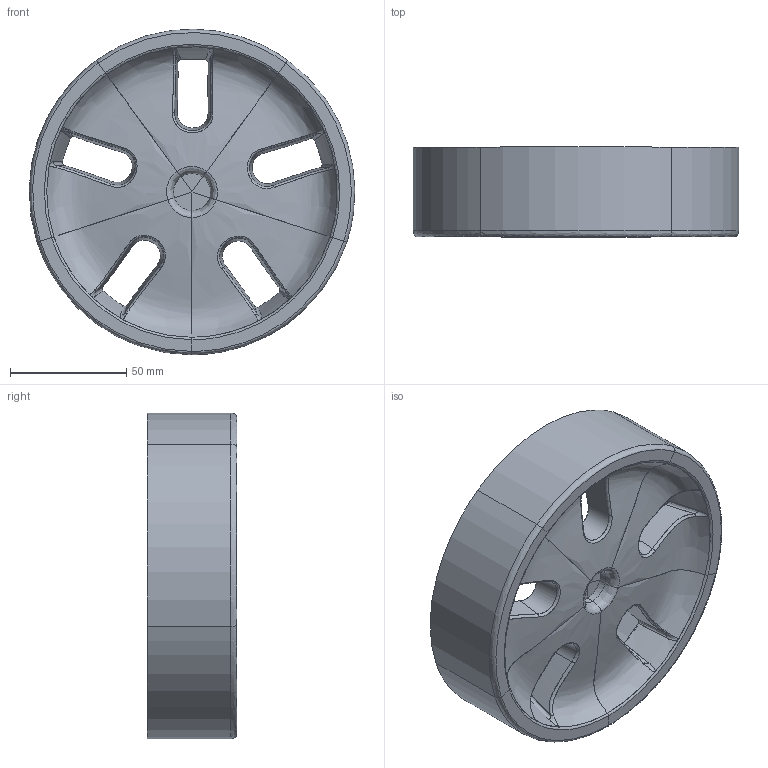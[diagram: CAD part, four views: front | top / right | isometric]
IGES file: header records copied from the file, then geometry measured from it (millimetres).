
Start section:  Alias AutoStudio for Windows version 9.7.1 IGES version 5.0
Global section: file name: C:\Dokumente und Einstellungen\Administrator\Desktop\FELGEN\wheel_rk_vorn1.igs; native system: Alias AutoStudio for Windows V9.7.1; preprocessor: 9.7.1; author: Administrator; organization: Unknown; date: 040125.232032; units: millimetre
Bounding box: 139.83 x 38.43 x 139.85 mm (x, y, z)
Surface area: 57145.8 mm2 (no closed solid volume)
Topology: 0 solids, 0 shells, 115 faces, 1200 edges, 1190 vertices
Faces by surface type: bspline 115
